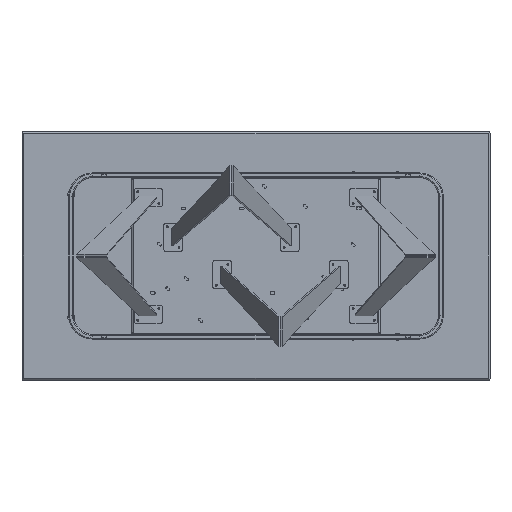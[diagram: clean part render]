
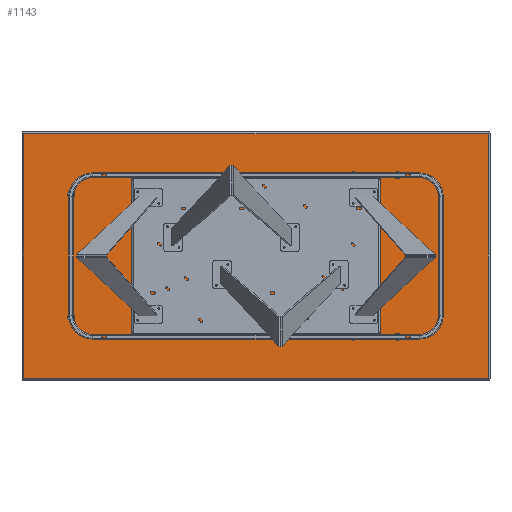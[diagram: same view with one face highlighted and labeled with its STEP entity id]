
A CAD part, front view. The second image highlights one B-rep face of the part: STEP entity #1143.
In plain terms, the highlighted planar face has unit normal (0, -1, 0).
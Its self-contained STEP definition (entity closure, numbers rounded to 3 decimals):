
#1143 = ADVANCED_FACE ( 'NONE', ( #18768 ), #9222, .F. ) ;
#1261 = CARTESIAN_POINT ( 'NONE',  ( 0., 0., 0. ) ) ;
#1422 = ORIENTED_EDGE ( 'NONE', *, *, #17821, .T. ) ;
#1463 = CARTESIAN_POINT ( 'NONE',  ( 0., 0., 522. ) ) ;
#1759 = VECTOR ( 'NONE', #7016, 1000. ) ;
#2514 = CARTESIAN_POINT ( 'NONE',  ( -992., 0., 0. ) ) ;
#2750 = ORIENTED_EDGE ( 'NONE', *, *, #4989, .T. ) ;
#3138 = AXIS2_PLACEMENT_3D ( 'NONE', #1261, #11962, #15831 ) ;
#3559 = DIRECTION ( 'NONE',  ( 0., 0., 1. ) ) ;
#4989 = EDGE_CURVE ( 'NONE', #9991, #17156, #9020, .T. ) ;
#5331 = LINE ( 'NONE', #7003, #8687 ) ;
#6726 = CARTESIAN_POINT ( 'NONE',  ( 992., 0., -522. ) ) ;
#7003 = CARTESIAN_POINT ( 'NONE',  ( 992., 0., 0. ) ) ;
#7016 = DIRECTION ( 'NONE',  ( 0., 0., -1. ) ) ;
#7681 = ORIENTED_EDGE ( 'NONE', *, *, #7951, .T. ) ;
#7951 = EDGE_CURVE ( 'NONE', #16012, #9991, #5331, .T. ) ;
#8569 = CARTESIAN_POINT ( 'NONE',  ( 0., 0., -522. ) ) ;
#8687 = VECTOR ( 'NONE', #3559, 1000. ) ;
#9020 = LINE ( 'NONE', #1463, #9246 ) ;
#9222 = PLANE ( 'NONE',  #3138 ) ;
#9246 = VECTOR ( 'NONE', #20425, 1000. ) ;
#9991 = VERTEX_POINT ( 'NONE', #14121 ) ;
#10130 = LINE ( 'NONE', #8569, #11254 ) ;
#10164 = ORIENTED_EDGE ( 'NONE', *, *, #11882, .T. ) ;
#10459 = LINE ( 'NONE', #2514, #1759 ) ;
#11254 = VECTOR ( 'NONE', #13276, 1000. ) ;
#11628 = CARTESIAN_POINT ( 'NONE',  ( -992., 0., 522. ) ) ;
#11882 = EDGE_CURVE ( 'NONE', #17156, #19493, #10459, .T. ) ;
#11962 = DIRECTION ( 'NONE',  ( 0., 1., 0. ) ) ;
#13021 = EDGE_LOOP ( 'NONE', ( #7681, #2750, #10164, #1422 ) ) ;
#13276 = DIRECTION ( 'NONE',  ( 1., 0., 0. ) ) ;
#14121 = CARTESIAN_POINT ( 'NONE',  ( 992., 0., 522. ) ) ;
#15396 = CARTESIAN_POINT ( 'NONE',  ( -992., 0., -522. ) ) ;
#15831 = DIRECTION ( 'NONE',  ( 0., 0., 1. ) ) ;
#16012 = VERTEX_POINT ( 'NONE', #6726 ) ;
#17156 = VERTEX_POINT ( 'NONE', #11628 ) ;
#17821 = EDGE_CURVE ( 'NONE', #19493, #16012, #10130, .T. ) ;
#18768 = FACE_OUTER_BOUND ( 'NONE', #13021, .T. ) ;
#19493 = VERTEX_POINT ( 'NONE', #15396 ) ;
#20425 = DIRECTION ( 'NONE',  ( -1., 0., 0. ) ) ;
